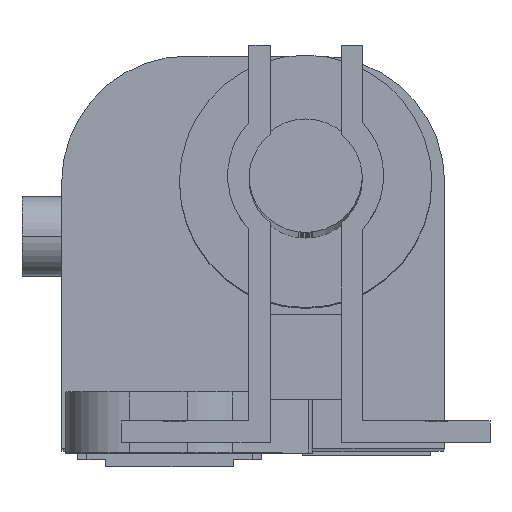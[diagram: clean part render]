
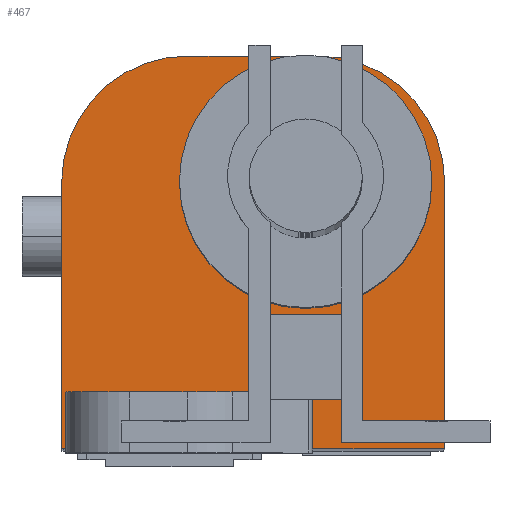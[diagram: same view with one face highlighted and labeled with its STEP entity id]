
A CAD part, top view. The second image highlights one B-rep face of the part: STEP entity #467.
In plain terms, the highlighted planar face has unit normal (0, 0, 1).
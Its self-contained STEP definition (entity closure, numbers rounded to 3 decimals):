
#81 = EDGE_CURVE ( 'NONE', #153, #107, #2844, .T. ) ;
#107 = VERTEX_POINT ( 'NONE', #2922 ) ;
#153 = VERTEX_POINT ( 'NONE', #3022 ) ;
#207 = EDGE_CURVE ( 'NONE', #248, #247, #3104, .T. ) ;
#247 = VERTEX_POINT ( 'NONE', #3161 ) ;
#248 = VERTEX_POINT ( 'NONE', #3160 ) ;
#311 = VERTEX_POINT ( 'NONE', #3252 ) ;
#313 = EDGE_CURVE ( 'NONE', #311, #314, #3257, .T. ) ;
#314 = VERTEX_POINT ( 'NONE', #3310 ) ;
#356 = VERTEX_POINT ( 'NONE', #3363 ) ;
#358 = EDGE_CURVE ( 'NONE', #311, #356, #3362, .T. ) ;
#373 = EDGE_CURVE ( 'NONE', #356, #423, #3399, .T. ) ;
#376 = VERTEX_POINT ( 'NONE', #3391 ) ;
#423 = VERTEX_POINT ( 'NONE', #3508 ) ;
#429 = VERTEX_POINT ( 'NONE', #3503 ) ;
#432 = EDGE_CURVE ( 'NONE', #433, #434, #3502, .T. ) ;
#433 = VERTEX_POINT ( 'NONE', #3498 ) ;
#434 = VERTEX_POINT ( 'NONE', #3497 ) ;
#452 = EDGE_CURVE ( 'NONE', #423, #429, #3537, .T. ) ;
#459 = EDGE_LOOP ( 'NONE', ( #474, #466 ) ) ;
#460 = ORIENTED_EDGE ( 'NONE', *, *, #207, .T. ) ;
#461 = ORIENTED_EDGE ( 'NONE', *, *, #469, .T. ) ;
#462 = EDGE_CURVE ( 'NONE', #314, #376, #3527, .T. ) ;
#463 = ORIENTED_EDGE ( 'NONE', *, *, #313, .F. ) ;
#464 = ORIENTED_EDGE ( 'NONE', *, *, #358, .T. ) ;
#465 = EDGE_CURVE ( 'NONE', #429, #433, #3523, .T. ) ;
#466 = ORIENTED_EDGE ( 'NONE', *, *, #81, .F. ) ;
#467 = ADVANCED_FACE ( 'NONE', ( #3518, #3517 ), #3516, .F. ) ;
#468 = ORIENTED_EDGE ( 'NONE', *, *, #462, .F. ) ;
#469 = EDGE_CURVE ( 'NONE', #247, #376, #3576, .T. ) ;
#470 = ORIENTED_EDGE ( 'NONE', *, *, #465, .T. ) ;
#471 = ORIENTED_EDGE ( 'NONE', *, *, #432, .T. ) ;
#472 = EDGE_LOOP ( 'NONE', ( #473, #470, #471, #488, #460, #461, #468, #463, #464, #478 ) ) ;
#473 = ORIENTED_EDGE ( 'NONE', *, *, #452, .T. ) ;
#474 = ORIENTED_EDGE ( 'NONE', *, *, #475, .F. ) ;
#475 = EDGE_CURVE ( 'NONE', #107, #153, #3572, .T. ) ;
#478 = ORIENTED_EDGE ( 'NONE', *, *, #373, .T. ) ;
#488 = ORIENTED_EDGE ( 'NONE', *, *, #489, .T. ) ;
#489 = EDGE_CURVE ( 'NONE', #434, #248, #3555, .T. ) ;
#2840 = DIRECTION ( 'NONE',  ( 1., 0., 0. ) ) ;
#2841 = DIRECTION ( 'NONE',  ( 0., 0., 1. ) ) ;
#2842 = CARTESIAN_POINT ( 'NONE',  ( 0., 18.8, 0. ) ) ;
#2843 = AXIS2_PLACEMENT_3D ( 'NONE', #2842, #2841, #2840 ) ;
#2844 = CIRCLE ( 'NONE', #2843, 7. ) ;
#2922 = CARTESIAN_POINT ( 'NONE',  ( 7., 18.8, 0. ) ) ;
#3022 = CARTESIAN_POINT ( 'NONE',  ( -7., 18.8, 0. ) ) ;
#3101 = DIRECTION ( 'NONE',  ( 0., -1., 0. ) ) ;
#3102 = VECTOR ( 'NONE', #3101, 1000. ) ;
#3103 = CARTESIAN_POINT ( 'NONE',  ( -17.2, 0., 0. ) ) ;
#3104 = LINE ( 'NONE', #3103, #3102 ) ;
#3160 = CARTESIAN_POINT ( 'NONE',  ( -17.2, 18.8, 0. ) ) ;
#3161 = CARTESIAN_POINT ( 'NONE',  ( -17.2, 0., 0. ) ) ;
#3252 = CARTESIAN_POINT ( 'NONE',  ( 0.5, 4., 0. ) ) ;
#3257 = LINE ( 'NONE', #3313, #3312 ) ;
#3310 = CARTESIAN_POINT ( 'NONE',  ( -16.9, 4., 0. ) ) ;
#3311 = DIRECTION ( 'NONE',  ( -1., 0., 0. ) ) ;
#3312 = VECTOR ( 'NONE', #3311, 1000. ) ;
#3313 = CARTESIAN_POINT ( 'NONE',  ( -16.9, 4., 0. ) ) ;
#3359 = DIRECTION ( 'NONE',  ( 0., -1., 0. ) ) ;
#3360 = VECTOR ( 'NONE', #3359, 1000. ) ;
#3361 = CARTESIAN_POINT ( 'NONE',  ( 0.5, 4., 0. ) ) ;
#3362 = LINE ( 'NONE', #3361, #3360 ) ;
#3363 = CARTESIAN_POINT ( 'NONE',  ( 0.5, 0., 0. ) ) ;
#3391 = CARTESIAN_POINT ( 'NONE',  ( -16.9, 0., 0. ) ) ;
#3396 = DIRECTION ( 'NONE',  ( 1., 0., 0. ) ) ;
#3397 = VECTOR ( 'NONE', #3396, 1000. ) ;
#3398 = CARTESIAN_POINT ( 'NONE',  ( -17.2, 0., 0. ) ) ;
#3399 = LINE ( 'NONE', #3398, #3397 ) ;
#3497 = CARTESIAN_POINT ( 'NONE',  ( -8.3, 27.7, 0. ) ) ;
#3498 = CARTESIAN_POINT ( 'NONE',  ( 0.9, 27.7, 0. ) ) ;
#3499 = DIRECTION ( 'NONE',  ( -1., 0., 0. ) ) ;
#3500 = VECTOR ( 'NONE', #3499, 1000. ) ;
#3501 = CARTESIAN_POINT ( 'NONE',  ( -17.2, 27.7, 0. ) ) ;
#3502 = LINE ( 'NONE', #3501, #3500 ) ;
#3503 = CARTESIAN_POINT ( 'NONE',  ( 9.8, 18.8, 0. ) ) ;
#3508 = CARTESIAN_POINT ( 'NONE',  ( 9.8, 0., 0. ) ) ;
#3512 = DIRECTION ( 'NONE',  ( -1., 0., 0. ) ) ;
#3513 = DIRECTION ( 'NONE',  ( 0., 0., -1. ) ) ;
#3514 = CARTESIAN_POINT ( 'NONE',  ( -17.2, 0., 0. ) ) ;
#3515 = AXIS2_PLACEMENT_3D ( 'NONE', #3514, #3513, #3512 ) ;
#3516 = PLANE ( 'NONE',  #3515 ) ;
#3517 = FACE_OUTER_BOUND ( 'NONE', #472, .T. ) ;
#3518 = FACE_BOUND ( 'NONE', #459, .T. ) ;
#3519 = DIRECTION ( 'NONE',  ( -1., 0., 0. ) ) ;
#3520 = DIRECTION ( 'NONE',  ( 0., 0., 1. ) ) ;
#3521 = CARTESIAN_POINT ( 'NONE',  ( 0.9, 18.8, 0. ) ) ;
#3522 = AXIS2_PLACEMENT_3D ( 'NONE', #3521, #3520, #3519 ) ;
#3523 = CIRCLE ( 'NONE', #3522, 8.9 ) ;
#3524 = DIRECTION ( 'NONE',  ( 0., -1., 0. ) ) ;
#3525 = VECTOR ( 'NONE', #3524, 1000. ) ;
#3526 = CARTESIAN_POINT ( 'NONE',  ( -16.9, 4., 0. ) ) ;
#3527 = LINE ( 'NONE', #3526, #3525 ) ;
#3534 = DIRECTION ( 'NONE',  ( 0., 1., 0. ) ) ;
#3535 = VECTOR ( 'NONE', #3534, 1000. ) ;
#3536 = CARTESIAN_POINT ( 'NONE',  ( 9.8, 0., 0. ) ) ;
#3537 = LINE ( 'NONE', #3536, #3535 ) ;
#3551 = DIRECTION ( 'NONE',  ( -1., 0., 0. ) ) ;
#3552 = DIRECTION ( 'NONE',  ( 0., 0., 1. ) ) ;
#3553 = CARTESIAN_POINT ( 'NONE',  ( -8.3, 18.8, 0. ) ) ;
#3554 = AXIS2_PLACEMENT_3D ( 'NONE', #3553, #3552, #3551 ) ;
#3555 = CIRCLE ( 'NONE', #3554, 8.9 ) ;
#3568 = DIRECTION ( 'NONE',  ( 1., 0., 0. ) ) ;
#3569 = DIRECTION ( 'NONE',  ( 0., 0., 1. ) ) ;
#3570 = CARTESIAN_POINT ( 'NONE',  ( 0., 18.8, 0. ) ) ;
#3571 = AXIS2_PLACEMENT_3D ( 'NONE', #3570, #3569, #3568 ) ;
#3572 = CIRCLE ( 'NONE', #3571, 7. ) ;
#3573 = DIRECTION ( 'NONE',  ( 1., 0., 0. ) ) ;
#3574 = VECTOR ( 'NONE', #3573, 1000. ) ;
#3575 = CARTESIAN_POINT ( 'NONE',  ( -17.2, 0., 0. ) ) ;
#3576 = LINE ( 'NONE', #3575, #3574 ) ;
